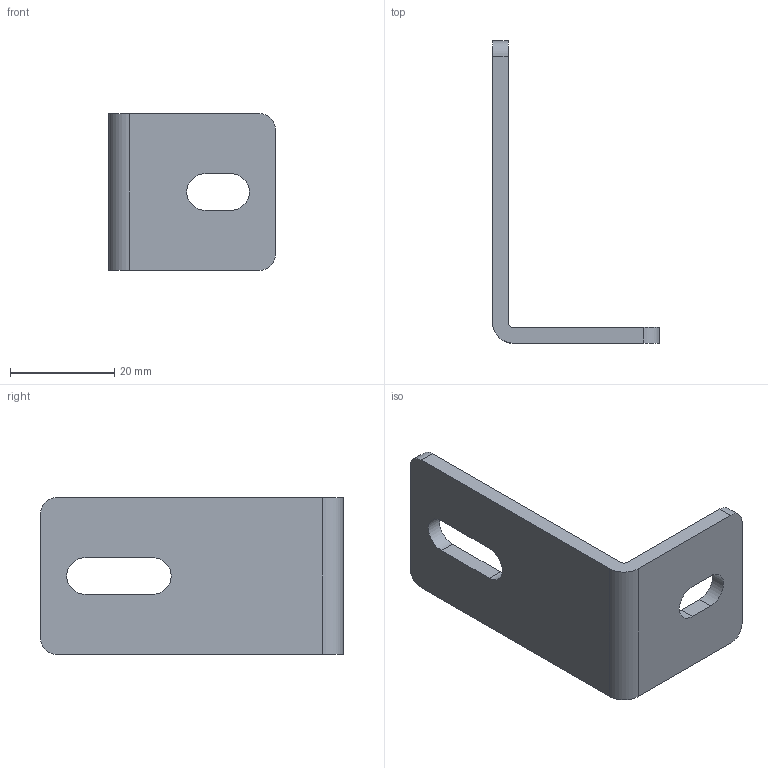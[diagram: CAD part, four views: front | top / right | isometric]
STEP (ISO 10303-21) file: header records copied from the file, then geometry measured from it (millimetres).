
FILE_DESCRIPTION((''),'2;1');
FILE_NAME('TCZJ1','2026-04-01T15:55:25',('Administrator'),(''),'CREO PARAMETRIC BY PTC INC, 2016510','CREO PARAMETRIC BY PTC INC, 2016510','');
FILE_SCHEMA(('AUTOMOTIVE_DESIGN { 1 0 10303 214 1 1 1 1 }'));
Length unit declared in the file: millimetre
Products named in the file (1): TCZJ1
Bounding box: 32 x 58 x 30 mm (x, y, z)
Volume: 7101.3 mm3; surface area: 5654.3 mm2
Topology: 1 solids, 1 shells, 22 faces, 60 edges, 40 vertices
Faces by surface type: plane 12, cylinder 10
Entity records: 949 total; most frequent: DIRECTION 124, CARTESIAN_POINT 124, ORIENTED_EDGE 120, PRESENTATION_STYLE_ASSIGNMENT 61, STYLED_ITEM 61, CURVE_STYLE 60, EDGE_CURVE 60, AXIS2_PLACEMENT_3D 42
